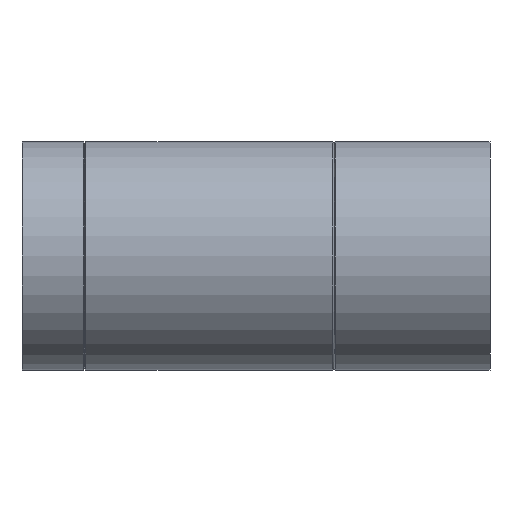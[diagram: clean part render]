
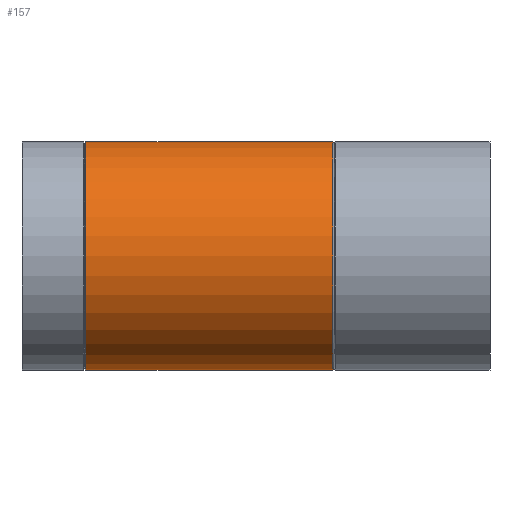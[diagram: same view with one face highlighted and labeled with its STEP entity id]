
A CAD part, left-side view. The second image highlights one B-rep face of the part: STEP entity #157.
In plain terms, the highlighted cylindrical face has radius 55 mm (diameter 110 mm), a full revolution.
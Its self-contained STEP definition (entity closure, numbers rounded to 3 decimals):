
#16=B_SPLINE_CURVE_WITH_KNOTS($,3,(#267,#268,#269,#270,#271,#272,#273,#274,
#275,#276,#277,#278,#279,#280,#281,#282,#283,#284,#285,#286,#287,#288,#289,
#290,#291,#292,#293,#294,#295,#296,#297,#298,#299,#300,#301,#302,#303,#304,
#305,#306,#307,#308,#309,#310,#311,#312,#313,#314,#315,#316,#317,#318,#319,
#320,#321,#322,#323,#324,#325,#326,#327,#328,#329,#330,#331,#332),
 .UNSPECIFIED.,.T.,.F.,(4,2,2,2,2,2,2,2,2,2,2,2,2,2,2,2,2,2,2,2,2,2,2,2,
2,2,2,2,2,2,2,2,4),(0.,0.543,1.085,1.628,
2.17,2.708,3.246,3.784,4.322,
4.86,5.398,5.936,6.475,7.017,
7.56,8.102,8.645,9.181,9.718,
10.255,10.791,11.329,11.866,12.404,
12.942,13.479,14.017,14.554,15.092,
15.629,16.165,16.702,17.238),
 .UNSPECIFIED.);
#19=CYLINDRICAL_SURFACE($,#180,55.);
#29=FACE_BOUND($,#63,.T.);
#30=FACE_BOUND($,#64,.T.);
#48=FACE_OUTER_BOUND($,#62,.T.);
#62=EDGE_LOOP($,(#130));
#63=EDGE_LOOP($,(#131));
#64=EDGE_LOOP($,(#132));
#81=CIRCLE($,#170,55.);
#86=CIRCLE($,#179,55.);
#93=VERTEX_POINT($,#249);
#98=VERTEX_POINT($,#263);
#99=VERTEX_POINT($,#266);
#107=EDGE_CURVE($,#93,#93,#81,.T.);
#112=EDGE_CURVE($,#98,#98,#86,.T.);
#113=EDGE_CURVE($,#99,#99,#16,.T.);
#130=ORIENTED_EDGE($,*,*,#107,.T.);
#131=ORIENTED_EDGE($,*,*,#113,.T.);
#132=ORIENTED_EDGE($,*,*,#112,.T.);
#157=ADVANCED_FACE($,(#48,#29,#30),#19,.T.);
#170=AXIS2_PLACEMENT_3D($,#250,#199,#200);
#179=AXIS2_PLACEMENT_3D($,#264,#217,#218);
#180=AXIS2_PLACEMENT_3D($,#265,#219,#220);
#199=DIRECTION('center_axis',(0.,-1.,0.));
#200=DIRECTION('ref_axis',(1.,0.,0.));
#217=DIRECTION('center_axis',(0.,1.,0.));
#218=DIRECTION('ref_axis',(1.,0.,0.));
#219=DIRECTION('center_axis',(0.,1.,0.));
#220=DIRECTION('ref_axis',(1.,0.,0.));
#249=CARTESIAN_POINT('',(55.,194.365,0.));
#250=CARTESIAN_POINT('Origin',(0.,194.365,0.));
#263=CARTESIAN_POINT('',(55.,75.635,0.));
#264=CARTESIAN_POINT('Origin',(0.,75.635,0.));
#265=CARTESIAN_POINT('Origin',(0.,0.,0.));
#266=CARTESIAN_POINT('',(47.339,136.24,28.));
#267=CARTESIAN_POINT('Ctrl Pts',(47.339,136.24,28.));
#268=CARTESIAN_POINT('Ctrl Pts',(47.339,138.048,28.));
#269=CARTESIAN_POINT('Ctrl Pts',(47.446,139.904,27.822));
#270=CARTESIAN_POINT('Ctrl Pts',(47.867,143.572,27.092));
#271=CARTESIAN_POINT('Ctrl Pts',(48.18,145.383,26.539));
#272=CARTESIAN_POINT('Ctrl Pts',(48.947,148.842,25.096));
#273=CARTESIAN_POINT('Ctrl Pts',(49.401,150.493,24.204));
#274=CARTESIAN_POINT('Ctrl Pts',(50.352,153.541,22.157));
#275=CARTESIAN_POINT('Ctrl Pts',(50.85,154.939,21.));
#276=CARTESIAN_POINT('Ctrl Pts',(51.793,157.407,18.551));
#277=CARTESIAN_POINT('Ctrl Pts',(52.274,158.568,17.172));
#278=CARTESIAN_POINT('Ctrl Pts',(53.171,160.628,14.155));
#279=CARTESIAN_POINT('Ctrl Pts',(53.585,161.527,12.518));
#280=CARTESIAN_POINT('Ctrl Pts',(54.273,162.982,9.083));
#281=CARTESIAN_POINT('Ctrl Pts',(54.547,163.538,7.281));
#282=CARTESIAN_POINT('Ctrl Pts',(54.91,164.272,3.637));
#283=CARTESIAN_POINT('Ctrl Pts',(55.,164.45,1.793));
#284=CARTESIAN_POINT('Ctrl Pts',(55.,164.45,-1.793));
#285=CARTESIAN_POINT('Ctrl Pts',(54.91,164.272,-3.637));
#286=CARTESIAN_POINT('Ctrl Pts',(54.547,163.538,-7.281));
#287=CARTESIAN_POINT('Ctrl Pts',(54.273,162.982,-9.083));
#288=CARTESIAN_POINT('Ctrl Pts',(53.585,161.527,-12.518));
#289=CARTESIAN_POINT('Ctrl Pts',(53.171,160.628,-14.155));
#290=CARTESIAN_POINT('Ctrl Pts',(52.274,158.568,-17.172));
#291=CARTESIAN_POINT('Ctrl Pts',(51.793,157.407,-18.551));
#292=CARTESIAN_POINT('Ctrl Pts',(50.85,154.939,-21.));
#293=CARTESIAN_POINT('Ctrl Pts',(50.352,153.541,-22.157));
#294=CARTESIAN_POINT('Ctrl Pts',(49.401,150.493,-24.204));
#295=CARTESIAN_POINT('Ctrl Pts',(48.947,148.842,-25.096));
#296=CARTESIAN_POINT('Ctrl Pts',(48.18,145.383,-26.539));
#297=CARTESIAN_POINT('Ctrl Pts',(47.867,143.572,-27.092));
#298=CARTESIAN_POINT('Ctrl Pts',(47.446,139.904,-27.822));
#299=CARTESIAN_POINT('Ctrl Pts',(47.339,138.048,-28.));
#300=CARTESIAN_POINT('Ctrl Pts',(47.339,134.451,-28.));
#301=CARTESIAN_POINT('Ctrl Pts',(47.444,132.615,-27.826));
#302=CARTESIAN_POINT('Ctrl Pts',(47.859,128.988,-27.105));
#303=CARTESIAN_POINT('Ctrl Pts',(48.17,127.197,-26.558));
#304=CARTESIAN_POINT('Ctrl Pts',(48.932,123.782,-25.126));
#305=CARTESIAN_POINT('Ctrl Pts',(49.383,122.154,-24.239));
#306=CARTESIAN_POINT('Ctrl Pts',(50.333,119.153,-22.201));
#307=CARTESIAN_POINT('Ctrl Pts',(50.83,117.779,-21.049));
#308=CARTESIAN_POINT('Ctrl Pts',(51.777,115.346,-18.599));
#309=CARTESIAN_POINT('Ctrl Pts',(52.262,114.2,-17.212));
#310=CARTESIAN_POINT('Ctrl Pts',(53.164,112.171,-14.18));
#311=CARTESIAN_POINT('Ctrl Pts',(53.581,111.288,-12.536));
#312=CARTESIAN_POINT('Ctrl Pts',(54.272,109.863,-9.09));
#313=CARTESIAN_POINT('Ctrl Pts',(54.546,109.319,-7.285));
#314=CARTESIAN_POINT('Ctrl Pts',(54.91,108.603,-3.636));
#315=CARTESIAN_POINT('Ctrl Pts',(55.,108.431,-1.792));
#316=CARTESIAN_POINT('Ctrl Pts',(55.,108.431,1.792));
#317=CARTESIAN_POINT('Ctrl Pts',(54.91,108.603,3.636));
#318=CARTESIAN_POINT('Ctrl Pts',(54.546,109.319,7.285));
#319=CARTESIAN_POINT('Ctrl Pts',(54.272,109.863,9.09));
#320=CARTESIAN_POINT('Ctrl Pts',(53.581,111.288,12.536));
#321=CARTESIAN_POINT('Ctrl Pts',(53.164,112.171,14.18));
#322=CARTESIAN_POINT('Ctrl Pts',(52.262,114.2,17.212));
#323=CARTESIAN_POINT('Ctrl Pts',(51.777,115.346,18.599));
#324=CARTESIAN_POINT('Ctrl Pts',(50.83,117.779,21.049));
#325=CARTESIAN_POINT('Ctrl Pts',(50.333,119.153,22.201));
#326=CARTESIAN_POINT('Ctrl Pts',(49.383,122.154,24.239));
#327=CARTESIAN_POINT('Ctrl Pts',(48.932,123.782,25.126));
#328=CARTESIAN_POINT('Ctrl Pts',(48.17,127.197,26.558));
#329=CARTESIAN_POINT('Ctrl Pts',(47.859,128.988,27.105));
#330=CARTESIAN_POINT('Ctrl Pts',(47.444,132.615,27.826));
#331=CARTESIAN_POINT('Ctrl Pts',(47.339,134.451,28.));
#332=CARTESIAN_POINT('Ctrl Pts',(47.339,136.24,28.));
